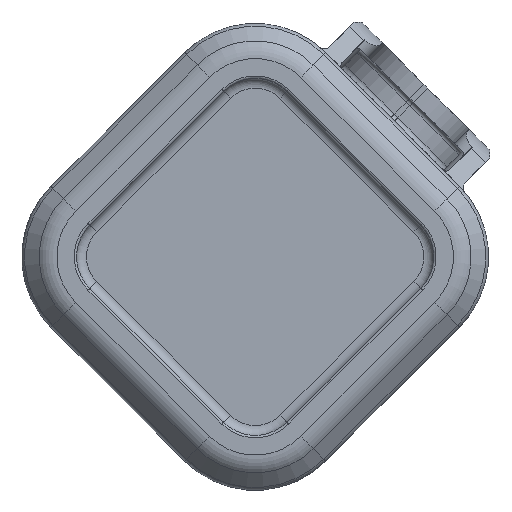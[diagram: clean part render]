
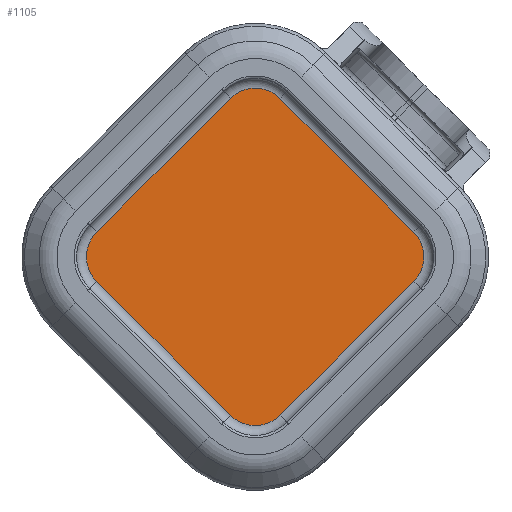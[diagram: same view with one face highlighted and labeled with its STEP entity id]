
A CAD part, front view. The second image highlights one B-rep face of the part: STEP entity #1105.
In plain terms, the highlighted planar face has unit normal (0, -1, 0).
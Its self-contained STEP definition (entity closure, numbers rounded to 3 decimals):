
#11 = CARTESIAN_POINT ( 'NONE',  ( -28.885, 499.5, -12.693 ) ) ;
#12 = VERTEX_POINT ( 'NONE', #4526 ) ;
#104 = VECTOR ( 'NONE', #3471, 1000. ) ;
#167 = EDGE_LOOP ( 'NONE', ( #3847, #1587, #1676, #4415, #3376, #3293, #3288, #1932 ) ) ;
#358 = VERTEX_POINT ( 'NONE', #1480 ) ;
#432 = CIRCLE ( 'NONE', #2371, 7. ) ;
#454 = VECTOR ( 'NONE', #3250, 1000. ) ;
#488 = CARTESIAN_POINT ( 'NONE',  ( -60.705, 499.5, -44.512 ) ) ;
#510 = DIRECTION ( 'NONE',  ( 0., 0., 1. ) ) ;
#586 = AXIS2_PLACEMENT_3D ( 'NONE', #3938, #3452, #2283 ) ;
#619 = CARTESIAN_POINT ( 'NONE',  ( -65.655, 499.5, -49.462 ) ) ;
#628 = CARTESIAN_POINT ( 'NONE',  ( -55.755, 499.5, -49.462 ) ) ;
#665 = DIRECTION ( 'NONE',  ( 0., -1., 0. ) ) ;
#670 = CARTESIAN_POINT ( 'NONE',  ( -87.575, 499.5, -17.642 ) ) ;
#729 = EDGE_CURVE ( 'NONE', #1094, #1183, #1758, .T. ) ;
#744 = DIRECTION ( 'NONE',  ( 0., -1., 0. ) ) ;
#846 = AXIS2_PLACEMENT_3D ( 'NONE', #670, #744, #3431 ) ;
#855 = EDGE_CURVE ( 'NONE', #3973, #1094, #3028, .T. ) ;
#890 = CARTESIAN_POINT ( 'NONE',  ( -92.525, 499.5, -12.693 ) ) ;
#1055 = DIRECTION ( 'NONE',  ( 0., 0., 1. ) ) ;
#1083 = AXIS2_PLACEMENT_3D ( 'NONE', #488, #4354, #510 ) ;
#1094 = VERTEX_POINT ( 'NONE', #1697 ) ;
#1105 = ADVANCED_FACE ( 'NONE', ( #2085 ), #2790, .F. ) ;
#1152 = CIRCLE ( 'NONE', #586, 7. ) ;
#1183 = VERTEX_POINT ( 'NONE', #619 ) ;
#1278 = EDGE_CURVE ( 'NONE', #1183, #2471, #432, .T. ) ;
#1369 = EDGE_CURVE ( 'NONE', #12, #3973, #4182, .T. ) ;
#1424 = CARTESIAN_POINT ( 'NONE',  ( -60.705, 499.5, -44.512 ) ) ;
#1468 = CARTESIAN_POINT ( 'NONE',  ( -92.525, 499.5, -12.693 ) ) ;
#1480 = CARTESIAN_POINT ( 'NONE',  ( -55.755, 499.5, 14.177 ) ) ;
#1533 = DIRECTION ( 'NONE',  ( -0.707, 0., 0.707 ) ) ;
#1562 = AXIS2_PLACEMENT_3D ( 'NONE', #4521, #3666, #1055 ) ;
#1587 = ORIENTED_EDGE ( 'NONE', *, *, #1278, .T. ) ;
#1589 = EDGE_CURVE ( 'NONE', #2914, #3342, #1152, .T. ) ;
#1614 = CARTESIAN_POINT ( 'NONE',  ( -55.755, 499.5, -49.462 ) ) ;
#1676 = ORIENTED_EDGE ( 'NONE', *, *, #3174, .T. ) ;
#1697 = CARTESIAN_POINT ( 'NONE',  ( -92.525, 499.5, -22.592 ) ) ;
#1758 = LINE ( 'NONE', #3713, #2543 ) ;
#1893 = VECTOR ( 'NONE', #1533, 1000. ) ;
#1932 = ORIENTED_EDGE ( 'NONE', *, *, #855, .T. ) ;
#2085 = FACE_OUTER_BOUND ( 'NONE', #167, .T. ) ;
#2283 = DIRECTION ( 'NONE',  ( 0., 0., 1. ) ) ;
#2371 = AXIS2_PLACEMENT_3D ( 'NONE', #1424, #665, #4454 ) ;
#2471 = VERTEX_POINT ( 'NONE', #1614 ) ;
#2510 = EDGE_CURVE ( 'NONE', #358, #12, #4476, .T. ) ;
#2543 = VECTOR ( 'NONE', #4462, 1000. ) ;
#2790 = PLANE ( 'NONE',  #1083 ) ;
#2914 = VERTEX_POINT ( 'NONE', #4599 ) ;
#2952 = EDGE_CURVE ( 'NONE', #3342, #358, #3465, .T. ) ;
#3028 = CIRCLE ( 'NONE', #846, 7. ) ;
#3174 = EDGE_CURVE ( 'NONE', #2471, #2914, #4361, .T. ) ;
#3250 = DIRECTION ( 'NONE',  ( 0.707, 0., 0.707 ) ) ;
#3288 = ORIENTED_EDGE ( 'NONE', *, *, #1369, .T. ) ;
#3293 = ORIENTED_EDGE ( 'NONE', *, *, #2510, .T. ) ;
#3342 = VERTEX_POINT ( 'NONE', #11 ) ;
#3376 = ORIENTED_EDGE ( 'NONE', *, *, #2952, .T. ) ;
#3431 = DIRECTION ( 'NONE',  ( 0., 0., 1. ) ) ;
#3452 = DIRECTION ( 'NONE',  ( 0., -1., 0. ) ) ;
#3465 = LINE ( 'NONE', #4998, #1893 ) ;
#3471 = DIRECTION ( 'NONE',  ( -0.707, 0., -0.707 ) ) ;
#3666 = DIRECTION ( 'NONE',  ( 0., -1., 0. ) ) ;
#3713 = CARTESIAN_POINT ( 'NONE',  ( -65.655, 499.5, -49.462 ) ) ;
#3847 = ORIENTED_EDGE ( 'NONE', *, *, #729, .T. ) ;
#3938 = CARTESIAN_POINT ( 'NONE',  ( -33.835, 499.5, -17.642 ) ) ;
#3973 = VERTEX_POINT ( 'NONE', #890 ) ;
#4182 = LINE ( 'NONE', #1468, #104 ) ;
#4354 = DIRECTION ( 'NONE',  ( 0., 1., 0. ) ) ;
#4361 = LINE ( 'NONE', #628, #454 ) ;
#4415 = ORIENTED_EDGE ( 'NONE', *, *, #1589, .T. ) ;
#4454 = DIRECTION ( 'NONE',  ( 0., 0., 1. ) ) ;
#4462 = DIRECTION ( 'NONE',  ( 0.707, 0., -0.707 ) ) ;
#4476 = CIRCLE ( 'NONE', #1562, 7. ) ;
#4521 = CARTESIAN_POINT ( 'NONE',  ( -60.705, 499.5, 9.228 ) ) ;
#4526 = CARTESIAN_POINT ( 'NONE',  ( -65.655, 499.5, 14.177 ) ) ;
#4599 = CARTESIAN_POINT ( 'NONE',  ( -28.885, 499.5, -22.592 ) ) ;
#4998 = CARTESIAN_POINT ( 'NONE',  ( -28.885, 499.5, -12.693 ) ) ;
